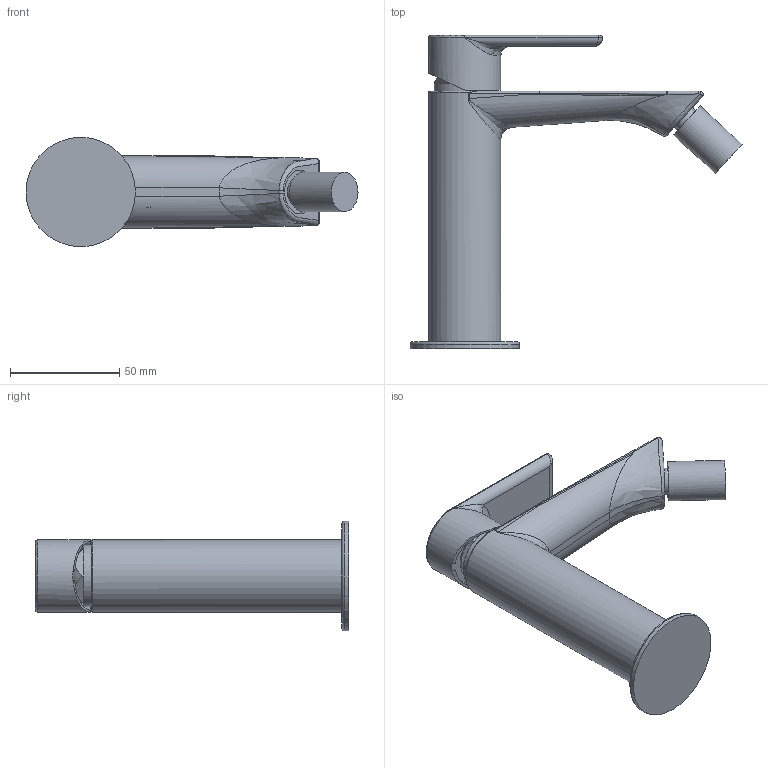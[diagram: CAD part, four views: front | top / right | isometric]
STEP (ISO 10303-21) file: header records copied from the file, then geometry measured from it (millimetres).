
FILE_DESCRIPTION (( 'STEP AP203' ), '1' );
FILE_NAME ('804011 x architetti.STEP', '2023-07-03T09:01:36', ( '' ), ( '' ), 'SwSTEP 2.0', 'SolidWorks 2020', '' );
FILE_SCHEMA (( 'CONFIG_CONTROL_DESIGN' ));
Length unit declared in the file: millimetre
Products named in the file (1): 804011 x architetti
Bounding box: 151.68 x 143 x 50 mm (x, y, z)
Volume: 171177.3 mm3; surface area: 36923.2 mm2
Topology: 1 solids, 8 shells, 178 faces, 434 edges, 273 vertices
Faces by surface type: plane 60, bspline 60, cylinder 47, torus 5, cone 5, sphere 1
Full cylindrical faces by diameter (mm): 12 x1, 17.25 x1, 18 x1, 19.2 x1, 20 x1, 21.6 x1, 28 x1, 33 x2, 50 x1
Entity records: 15220 total; most frequent: CARTESIAN_POINT 11731, ORIENTED_EDGE 810, DIRECTION 524, EDGE_CURVE 405, VERTEX_POINT 267, AXIS2_PLACEMENT_3D 214, EDGE_LOOP 204, FACE_OUTER_BOUND 191
